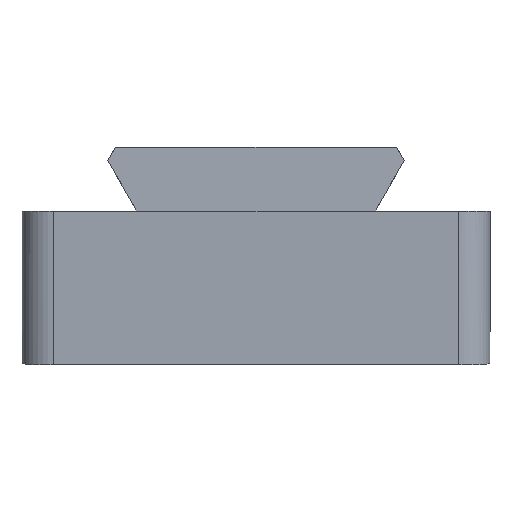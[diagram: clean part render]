
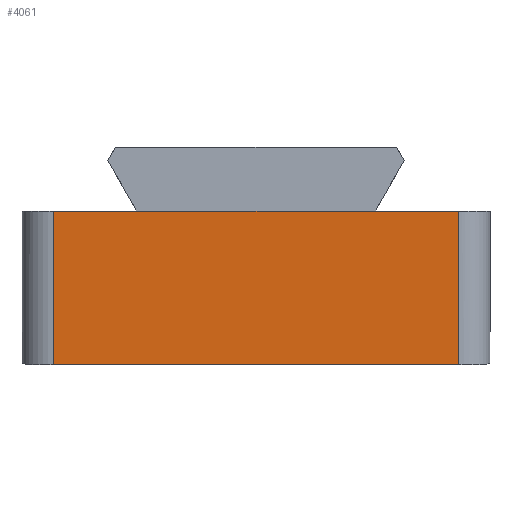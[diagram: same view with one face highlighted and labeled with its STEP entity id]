
A CAD part, left-side view. The second image highlights one B-rep face of the part: STEP entity #4061.
In plain terms, the highlighted planar face has unit normal (-0.999, 0, -0.052).
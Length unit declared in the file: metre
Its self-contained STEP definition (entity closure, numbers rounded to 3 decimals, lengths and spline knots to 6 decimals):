
#626=ORIENTED_EDGE('',*,*,#1656,.T.);
#627=ORIENTED_EDGE('',*,*,#1823,.T.);
#628=ORIENTED_EDGE('',*,*,#1586,.F.);
#629=ORIENTED_EDGE('',*,*,#1824,.T.);
#630=ORIENTED_EDGE('',*,*,#1668,.T.);
#631=ORIENTED_EDGE('',*,*,#1818,.T.);
#1586=EDGE_CURVE('',#2203,#2204,#2614,.T.);
#1656=EDGE_CURVE('',#2264,#2271,#2659,.T.);
#1668=EDGE_CURVE('',#2280,#2256,#2665,.T.);
#1818=EDGE_CURVE('',#2256,#2264,#2733,.T.);
#1823=EDGE_CURVE('',#2271,#2204,#2734,.T.);
#1824=EDGE_CURVE('',#2203,#2280,#2735,.F.);
#2203=VERTEX_POINT('',#5472);
#2204=VERTEX_POINT('',#5474);
#2256=VERTEX_POINT('',#5585);
#2264=VERTEX_POINT('',#5603);
#2271=VERTEX_POINT('',#5620);
#2280=VERTEX_POINT('',#5642);
#2614=LINE('',#5473,#3007);
#2659=LINE('',#5621,#3052);
#2665=LINE('',#5641,#3058);
#2733=LINE('',#6056,#3126);
#2734=LINE('',#6068,#3127);
#2735=LINE('',#6069,#3128);
#3007=VECTOR('',#4556,1.);
#3052=VECTOR('',#4671,1.);
#3058=VECTOR('',#4689,1.);
#3126=VECTOR('',#4817,1.);
#3127=VECTOR('',#4836,1.);
#3128=VECTOR('',#4837,1.);
#3439=EDGE_LOOP('',(#626,#627,#628,#629,#630,#631));
#3700=FACE_BOUND('',#3439,.T.);
#3936=PLANE('',#4363);
#4061=ADVANCED_FACE('',(#3700),#3936,.F.);
#4363=AXIS2_PLACEMENT_3D('',#6067,#4834,#4835);
#4556=DIRECTION('',(0.,1.,0.));
#4671=DIRECTION('',(0.,1.,0.));
#4689=DIRECTION('',(0.,1.,0.));
#4817=DIRECTION('',(0.,1.,0.));
#4834=DIRECTION('',(0.999,0.,0.052));
#4835=DIRECTION('',(0.052,0.,-0.999));
#4836=DIRECTION('',(0.052,0.,-0.999));
#4837=DIRECTION('',(0.052,0.,-0.999));
#5472=CARTESIAN_POINT('',(0.000517,-0.013,-0.009869));
#5473=CARTESIAN_POINT('',(0.000517,-0.015,-0.009869));
#5474=CARTESIAN_POINT('',(0.000517,0.013,-0.009869));
#5585=CARTESIAN_POINT('',(0.,-0.007695,0.));
#5603=CARTESIAN_POINT('',(0.,0.007695,0.));
#5620=CARTESIAN_POINT('',(0.,0.013,0.));
#5621=CARTESIAN_POINT('',(0.,-0.015,0.));
#5641=CARTESIAN_POINT('',(0.,-0.015,0.));
#5642=CARTESIAN_POINT('',(0.,-0.013,0.));
#6056=CARTESIAN_POINT('',(0.,0.,0.));
#6067=CARTESIAN_POINT('',(0.000259,-0.015,-0.004934));
#6068=CARTESIAN_POINT('',(0.000259,0.013,-0.004934));
#6069=CARTESIAN_POINT('',(0.,-0.013,0.));
